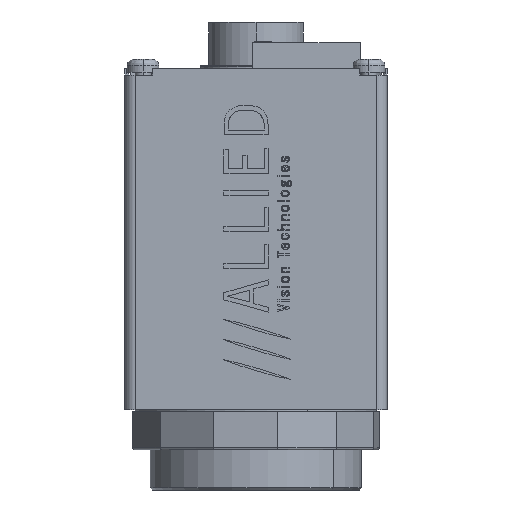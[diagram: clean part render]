
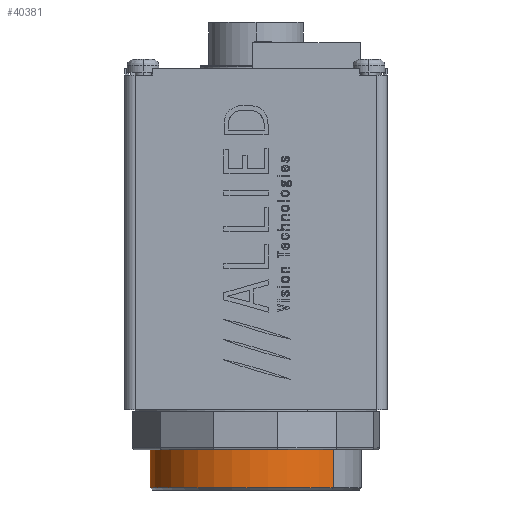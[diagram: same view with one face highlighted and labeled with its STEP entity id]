
A CAD part, left-side view. The second image highlights one B-rep face of the part: STEP entity #40381.
In plain terms, the highlighted cylindrical face has radius 13.335 mm (diameter 26.67 mm), a partial arc.
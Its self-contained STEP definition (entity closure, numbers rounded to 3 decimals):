
#3663 = CARTESIAN_POINT ( 'NONE',  ( 0., 0., 13.386 ) ) ;
#4169 = CARTESIAN_POINT ( 'NONE',  ( 13.335, 0., 7.214 ) ) ;
#6763 = VECTOR ( 'NONE', #40633, 1000. ) ;
#7945 = CIRCLE ( 'NONE', #77831, 13.335 ) ;
#11435 = CARTESIAN_POINT ( 'NONE',  ( -13.335, 0., 7.214 ) ) ;
#15472 = DIRECTION ( 'NONE',  ( 1., 0., 0. ) ) ;
#17472 = DIRECTION ( 'NONE',  ( 1., 0., 0. ) ) ;
#17730 = CARTESIAN_POINT ( 'NONE',  ( 13.335, 0., 7.214 ) ) ;
#20575 = LINE ( 'NONE', #17730, #52829 ) ;
#23541 = AXIS2_PLACEMENT_3D ( 'NONE', #79474, #175523, #93272 ) ;
#31609 = DIRECTION ( 'NONE',  ( 0., 0., 1. ) ) ;
#31907 = VERTEX_POINT ( 'NONE', #11435 ) ;
#40381 = ADVANCED_FACE ( 'NONE', ( #126884 ), #77251, .T. ) ;
#40633 = DIRECTION ( 'NONE',  ( 0., 0., 1. ) ) ;
#43475 = LINE ( 'NONE', #136778, #6763 ) ;
#52829 = VECTOR ( 'NONE', #31609, 1000. ) ;
#57460 = ORIENTED_EDGE ( 'NONE', *, *, #123585, .T. ) ;
#77251 = CYLINDRICAL_SURFACE ( 'NONE', #96381, 13.335 ) ;
#77831 = AXIS2_PLACEMENT_3D ( 'NONE', #3663, #99912, #17472 ) ;
#79474 = CARTESIAN_POINT ( 'NONE',  ( 0., 0., 7.214 ) ) ;
#79752 = CARTESIAN_POINT ( 'NONE',  ( 13.335, 0., 13.386 ) ) ;
#83651 = ORIENTED_EDGE ( 'NONE', *, *, #124382, .F. ) ;
#88345 = CARTESIAN_POINT ( 'NONE',  ( -13.335, 0., 13.386 ) ) ;
#93272 = DIRECTION ( 'NONE',  ( 1., 0., 0. ) ) ;
#96381 = AXIS2_PLACEMENT_3D ( 'NONE', #165707, #138815, #15472 ) ;
#98334 = ORIENTED_EDGE ( 'NONE', *, *, #99077, .T. ) ;
#99077 = EDGE_CURVE ( 'NONE', #31907, #104308, #43475, .T. ) ;
#99912 = DIRECTION ( 'NONE',  ( 0., 0., -1. ) ) ;
#104308 = VERTEX_POINT ( 'NONE', #88345 ) ;
#116677 = EDGE_CURVE ( 'NONE', #160197, #31907, #118136, .T. ) ;
#116871 = EDGE_LOOP ( 'NONE', ( #158274, #98334, #57460, #83651 ) ) ;
#118136 = CIRCLE ( 'NONE', #23541, 13.335 ) ;
#123585 = EDGE_CURVE ( 'NONE', #104308, #126768, #7945, .T. ) ;
#124382 = EDGE_CURVE ( 'NONE', #160197, #126768, #20575, .T. ) ;
#126768 = VERTEX_POINT ( 'NONE', #79752 ) ;
#126884 = FACE_OUTER_BOUND ( 'NONE', #116871, .T. ) ;
#136778 = CARTESIAN_POINT ( 'NONE',  ( -13.335, 0., 7.214 ) ) ;
#138815 = DIRECTION ( 'NONE',  ( 0., 0., 1. ) ) ;
#158274 = ORIENTED_EDGE ( 'NONE', *, *, #116677, .T. ) ;
#160197 = VERTEX_POINT ( 'NONE', #4169 ) ;
#165707 = CARTESIAN_POINT ( 'NONE',  ( 0., 0., 7.214 ) ) ;
#175523 = DIRECTION ( 'NONE',  ( 0., 0., 1. ) ) ;
